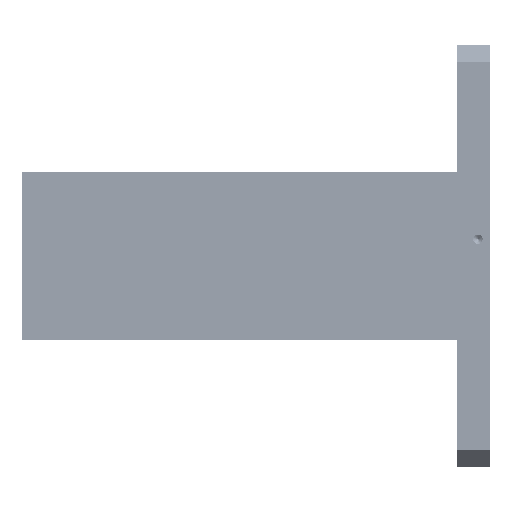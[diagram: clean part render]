
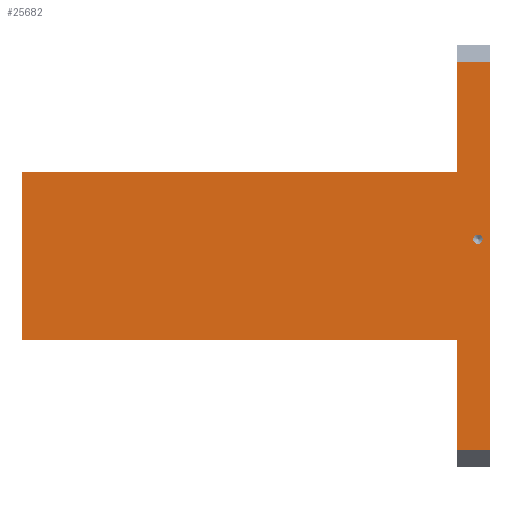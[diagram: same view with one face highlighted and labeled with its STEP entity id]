
A CAD part, left-side view. The second image highlights one B-rep face of the part: STEP entity #25682.
In plain terms, the highlighted planar face has unit normal (-1, 0, 0).
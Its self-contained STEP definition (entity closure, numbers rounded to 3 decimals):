
#65=DIRECTION('',(0.,0.,1.));
#66=VECTOR('',#65,165.);
#67=CARTESIAN_POINT('',(-315.,0.,125.));
#68=LINE('',#67,#66);
#105=DIRECTION('',(0.,0.,1.));
#106=VECTOR('',#105,165.);
#107=CARTESIAN_POINT('',(-315.,0.,-290.));
#108=LINE('',#107,#106);
#173=DIRECTION('',(0.,0.,1.));
#174=VECTOR('',#173,580.);
#175=CARTESIAN_POINT('',(-315.,-50.,-290.));
#176=LINE('',#175,#174);
#279=CARTESIAN_POINT('',(-315.,-32.,25.));
#280=DIRECTION('',(-1.,0.,0.));
#281=DIRECTION('',(0.,1.,0.));
#282=AXIS2_PLACEMENT_3D('',#279,#280,#281);
#284=CARTESIAN_POINT('',(-315.,-32.,25.));
#285=DIRECTION('',(-1.,0.,0.));
#286=DIRECTION('',(0.,-1.,0.));
#287=AXIS2_PLACEMENT_3D('',#284,#285,#286);
#289=DIRECTION('',(0.,-1.,0.));
#290=VECTOR('',#289,50.);
#291=CARTESIAN_POINT('',(-315.,0.,290.));
#292=LINE('',#291,#290);
#293=DIRECTION('',(0.,-1.,0.));
#294=VECTOR('',#293,50.);
#295=CARTESIAN_POINT('',(-315.,0.,-290.));
#296=LINE('',#295,#294);
#297=DIRECTION('',(0.,1.,0.));
#298=VECTOR('',#297,650.);
#299=CARTESIAN_POINT('',(-315.,0.,-125.));
#300=LINE('',#299,#298);
#427=DIRECTION('',(0.,1.,0.));
#428=VECTOR('',#427,650.);
#429=CARTESIAN_POINT('',(-315.,0.,125.));
#430=LINE('',#429,#428);
#1871=DIRECTION('',(0.,0.,1.));
#1872=VECTOR('',#1871,250.);
#1873=CARTESIAN_POINT('',(-315.,650.,-125.));
#1874=LINE('',#1873,#1872);
#19797=CARTESIAN_POINT('',(-315.,650.,-125.));
#19798=CARTESIAN_POINT('',(-315.,650.,125.));
#19799=VERTEX_POINT('',#19797);
#19800=VERTEX_POINT('',#19798);
#19805=CARTESIAN_POINT('',(-315.,0.,125.));
#19807=VERTEX_POINT('',#19805);
#19809=CARTESIAN_POINT('',(-315.,0.,-125.));
#19811=VERTEX_POINT('',#19809);
#19903=CARTESIAN_POINT('',(-315.,-25.,25.));
#19904=CARTESIAN_POINT('',(-315.,-39.,25.));
#19905=VERTEX_POINT('',#19903);
#19906=VERTEX_POINT('',#19904);
#19908=CARTESIAN_POINT('',(-315.,-50.,290.));
#19910=VERTEX_POINT('',#19908);
#19911=CARTESIAN_POINT('',(-315.,0.,290.));
#19912=VERTEX_POINT('',#19911);
#19917=CARTESIAN_POINT('',(-315.,-50.,-290.));
#19918=VERTEX_POINT('',#19917);
#19925=CARTESIAN_POINT('',(-315.,0.,-290.));
#19926=VERTEX_POINT('',#19925);
#25657=CARTESIAN_POINT('',(-315.,0.,-315.));
#25658=DIRECTION('',(-1.,0.,0.));
#25659=DIRECTION('',(0.,0.,1.));
#25660=AXIS2_PLACEMENT_3D('',#25657,#25658,#25659);
#25661=PLANE('',#25660);
#25662=ORIENTED_EDGE('',*,*,#25649,.T.);
#25663=ORIENTED_EDGE('',*,*,#25562,.F.);
#25665=ORIENTED_EDGE('',*,*,#25664,.F.);
#25666=ORIENTED_EDGE('',*,*,#25448,.T.);
#25668=ORIENTED_EDGE('',*,*,#25667,.T.);
#25670=ORIENTED_EDGE('',*,*,#25669,.T.);
#25672=ORIENTED_EDGE('',*,*,#25671,.F.);
#25673=ORIENTED_EDGE('',*,*,#25402,.T.);
#25674=EDGE_LOOP('',(#25662,#25663,#25665,#25666,#25668,#25670,#25672,#25673));
#25675=FACE_OUTER_BOUND('',#25674,.F.);
#25677=ORIENTED_EDGE('',*,*,#25676,.T.);
#25679=ORIENTED_EDGE('',*,*,#25678,.T.);
#25680=EDGE_LOOP('',(#25677,#25679));
#25681=FACE_BOUND('',#25680,.F.);
#25682=ADVANCED_FACE('',(#25675,#25681),#25661,.T.);
#283=CIRCLE('',#282,7.);
#288=CIRCLE('',#287,7.);
#25402=EDGE_CURVE('',#19807,#19912,#68,.T.);
#25448=EDGE_CURVE('',#19926,#19811,#108,.T.);
#25562=EDGE_CURVE('',#19918,#19910,#176,.T.);
#25649=EDGE_CURVE('',#19912,#19910,#292,.T.);
#25664=EDGE_CURVE('',#19926,#19918,#296,.T.);
#25667=EDGE_CURVE('',#19811,#19799,#300,.T.);
#25669=EDGE_CURVE('',#19799,#19800,#1874,.T.);
#25671=EDGE_CURVE('',#19807,#19800,#430,.T.);
#25676=EDGE_CURVE('',#19905,#19906,#283,.T.);
#25678=EDGE_CURVE('',#19906,#19905,#288,.T.);
